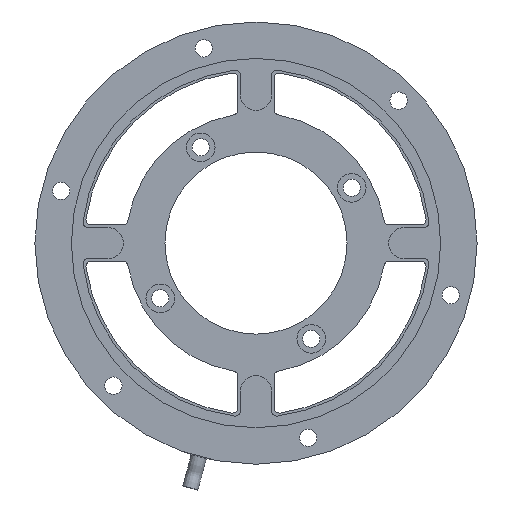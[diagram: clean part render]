
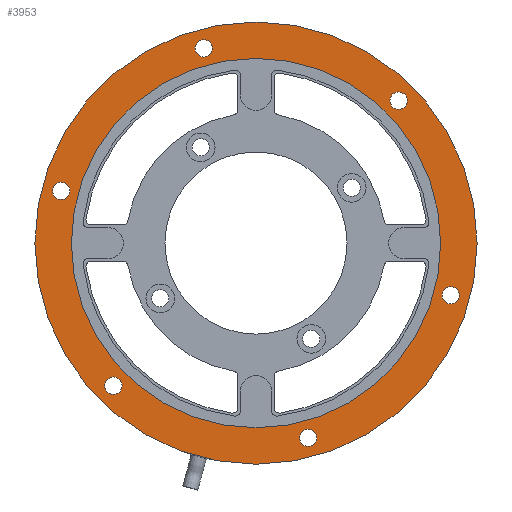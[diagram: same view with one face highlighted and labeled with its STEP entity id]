
A CAD part, front view. The second image highlights one B-rep face of the part: STEP entity #3953.
In plain terms, the highlighted planar face has unit normal (0, -1, 0).
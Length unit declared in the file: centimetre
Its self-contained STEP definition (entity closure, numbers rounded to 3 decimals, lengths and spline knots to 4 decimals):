
#169=PLANE('',#4329);
#933=VERTEX_POINT('',#6298);
#934=VERTEX_POINT('',#6301);
#935=VERTEX_POINT('',#6304);
#936=VERTEX_POINT('',#6307);
#937=VERTEX_POINT('',#6310);
#938=VERTEX_POINT('',#6313);
#1016=VERTEX_POINT('',#6531);
#1017=VERTEX_POINT('',#6533);
#1304=CIRCLE('',#4235,0.3324);
#1305=CIRCLE('',#4237,0.3324);
#1306=CIRCLE('',#4239,0.3324);
#1307=CIRCLE('',#4241,0.3324);
#1308=CIRCLE('',#4243,0.3324);
#1309=CIRCLE('',#4245,0.3324);
#1363=CIRCLE('',#4330,7.1);
#1364=CIRCLE('',#4331,8.5);
#1669=EDGE_CURVE('',#933,#933,#1304,.T.);
#1670=EDGE_CURVE('',#934,#934,#1305,.T.);
#1671=EDGE_CURVE('',#935,#935,#1306,.T.);
#1672=EDGE_CURVE('',#936,#936,#1307,.T.);
#1673=EDGE_CURVE('',#937,#937,#1308,.T.);
#1674=EDGE_CURVE('',#938,#938,#1309,.T.);
#1783=EDGE_CURVE('',#1016,#1016,#1363,.T.);
#1784=EDGE_CURVE('',#1017,#1017,#1364,.T.);
#2562=ORIENTED_EDGE('',*,*,#1669,.T.);
#2563=ORIENTED_EDGE('',*,*,#1670,.T.);
#2564=ORIENTED_EDGE('',*,*,#1671,.T.);
#2565=ORIENTED_EDGE('',*,*,#1672,.T.);
#2566=ORIENTED_EDGE('',*,*,#1673,.T.);
#2567=ORIENTED_EDGE('',*,*,#1674,.T.);
#2568=ORIENTED_EDGE('',*,*,#1783,.T.);
#2569=ORIENTED_EDGE('',*,*,#1784,.F.);
#3418=EDGE_LOOP('',(#2562));
#3419=EDGE_LOOP('',(#2563));
#3420=EDGE_LOOP('',(#2564));
#3421=EDGE_LOOP('',(#2565));
#3422=EDGE_LOOP('',(#2566));
#3423=EDGE_LOOP('',(#2567));
#3424=EDGE_LOOP('',(#2568));
#3425=EDGE_LOOP('',(#2569));
#3709=FACE_BOUND('',#3418,.T.);
#3710=FACE_BOUND('',#3419,.T.);
#3711=FACE_BOUND('',#3420,.T.);
#3712=FACE_BOUND('',#3421,.T.);
#3713=FACE_BOUND('',#3422,.T.);
#3714=FACE_BOUND('',#3423,.T.);
#3715=FACE_BOUND('',#3424,.T.);
#3716=FACE_BOUND('',#3425,.T.);
#3953=ADVANCED_FACE('',(#3709,#3710,#3711,#3712,#3713,#3714,#3715,#3716),
#169,.F.);
#4235=AXIS2_PLACEMENT_3D('',#6297,#4939,#4940);
#4237=AXIS2_PLACEMENT_3D('',#6300,#4943,#4944);
#4239=AXIS2_PLACEMENT_3D('',#6303,#4947,#4948);
#4241=AXIS2_PLACEMENT_3D('',#6306,#4951,#4952);
#4243=AXIS2_PLACEMENT_3D('',#6309,#4955,#4956);
#4245=AXIS2_PLACEMENT_3D('',#6312,#4959,#4960);
#4329=AXIS2_PLACEMENT_3D('',#6529,#5172,$);
#4330=AXIS2_PLACEMENT_3D('',#6530,#5173,#5174);
#4331=AXIS2_PLACEMENT_3D('',#6532,#5175,#5176);
#4939=DIRECTION('',(0.,1.,0.));
#4940=DIRECTION('',(0.332,0.,0.));
#4943=DIRECTION('',(0.,1.,0.));
#4944=DIRECTION('',(0.332,0.,0.));
#4947=DIRECTION('',(0.,1.,0.));
#4948=DIRECTION('',(0.332,0.,0.));
#4951=DIRECTION('',(0.,1.,0.));
#4952=DIRECTION('',(0.332,0.,0.));
#4955=DIRECTION('',(0.,1.,0.));
#4956=DIRECTION('',(0.332,0.,0.));
#4959=DIRECTION('',(0.,1.,0.));
#4960=DIRECTION('',(0.332,0.,0.));
#5172=DIRECTION('',(0.,1.,0.));
#5173=DIRECTION('',(0.,1.,0.));
#5174=DIRECTION('',(0.,0.,7.1));
#5175=DIRECTION('',(0.,1.,0.));
#5176=DIRECTION('',(8.5,0.,0.));
#6297=CARTESIAN_POINT('',(5.4801,-0.8,5.4801));
#6298=CARTESIAN_POINT('',(5.8124,-0.8,5.4801));
#6300=CARTESIAN_POINT('',(-2.0058,-0.8,7.4859));
#6301=CARTESIAN_POINT('',(-1.6735,-0.8,7.4859));
#6303=CARTESIAN_POINT('',(-7.4859,-0.8,2.0058));
#6304=CARTESIAN_POINT('',(-7.1536,-0.8,2.0058));
#6306=CARTESIAN_POINT('',(-5.4801,-0.8,-5.4801));
#6307=CARTESIAN_POINT('',(-5.1477,-0.8,-5.4801));
#6309=CARTESIAN_POINT('',(2.0058,-0.8,-7.4859));
#6310=CARTESIAN_POINT('',(2.3382,-0.8,-7.4859));
#6312=CARTESIAN_POINT('',(7.4859,-0.8,-2.0058));
#6313=CARTESIAN_POINT('',(7.8183,-0.8,-2.0058));
#6529=CARTESIAN_POINT('',(0.,-0.8,0.));
#6530=CARTESIAN_POINT('',(0.,-0.8,0.));
#6531=CARTESIAN_POINT('',(7.1,-0.8,0.));
#6532=CARTESIAN_POINT('',(0.,-0.8,0.));
#6533=CARTESIAN_POINT('',(8.5,-0.8,0.));
